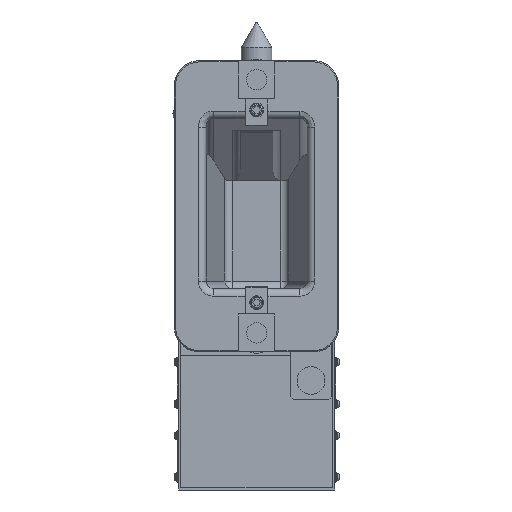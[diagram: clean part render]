
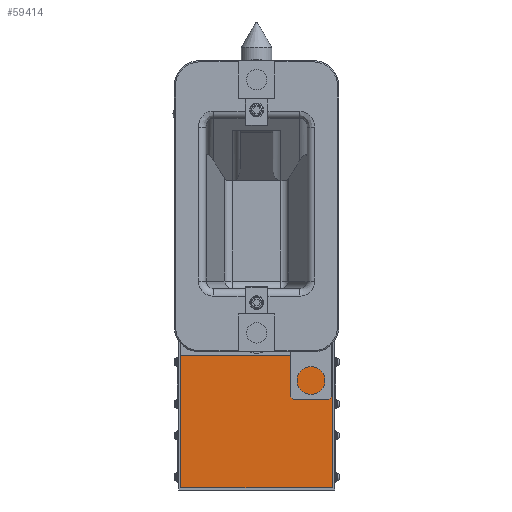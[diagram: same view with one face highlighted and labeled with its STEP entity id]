
A CAD part, front view. The second image highlights one B-rep face of the part: STEP entity #59414.
In plain terms, the highlighted planar face has unit normal (0, -1, 0).
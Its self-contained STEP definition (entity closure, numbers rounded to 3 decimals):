
#1916 = ORIENTED_EDGE ( 'NONE', *, *, #50936, .T. ) ;
#3050 = ORIENTED_EDGE ( 'NONE', *, *, #73758, .T. ) ;
#4773 = CARTESIAN_POINT ( 'NONE',  ( -60., 40., -33.5 ) ) ;
#9565 = DIRECTION ( 'NONE',  ( 0., -1., 0. ) ) ;
#10235 = EDGE_LOOP ( 'NONE', ( #1916, #59648, #3050, #11446 ) ) ;
#11431 = VERTEX_POINT ( 'NONE', #76260 ) ;
#11446 = ORIENTED_EDGE ( 'NONE', *, *, #37779, .F. ) ;
#11605 = VECTOR ( 'NONE', #12597, 1000. ) ;
#12034 = EDGE_CURVE ( 'NONE', #17889, #23284, #58261, .T. ) ;
#12597 = DIRECTION ( 'NONE',  ( 1., 0., 0. ) ) ;
#14359 = LINE ( 'NONE', #75267, #74470 ) ;
#15799 = AXIS2_PLACEMENT_3D ( 'NONE', #57546, #9565, #69699 ) ;
#17889 = VERTEX_POINT ( 'NONE', #21571 ) ;
#18437 = LINE ( 'NONE', #4773, #48460 ) ;
#21571 = CARTESIAN_POINT ( 'NONE',  ( 60., 40., -138.4 ) ) ;
#23284 = VERTEX_POINT ( 'NONE', #75992 ) ;
#35241 = CARTESIAN_POINT ( 'NONE',  ( -60., 40., -33.5 ) ) ;
#37779 = EDGE_CURVE ( 'NONE', #11431, #47424, #14359, .T. ) ;
#39855 = DIRECTION ( 'NONE',  ( 0., 0., 1. ) ) ;
#42223 = VECTOR ( 'NONE', #39855, 1000. ) ;
#43430 = LINE ( 'NONE', #60645, #11605 ) ;
#47424 = VERTEX_POINT ( 'NONE', #35241 ) ;
#48460 = VECTOR ( 'NONE', #52695, 1000. ) ;
#50936 = EDGE_CURVE ( 'NONE', #11431, #17889, #43430, .T. ) ;
#52695 = DIRECTION ( 'NONE',  ( -1., 0., 0. ) ) ;
#53569 = FACE_OUTER_BOUND ( 'NONE', #10235, .T. ) ;
#57394 = DIRECTION ( 'NONE',  ( 0., 0., 1. ) ) ;
#57546 = CARTESIAN_POINT ( 'NONE',  ( -60., 40., -140. ) ) ;
#57792 = CARTESIAN_POINT ( 'NONE',  ( 60., 40., -140. ) ) ;
#58261 = LINE ( 'NONE', #57792, #42223 ) ;
#59414 = ADVANCED_FACE ( 'NONE', ( #53569 ), #63657, .T. ) ;
#59648 = ORIENTED_EDGE ( 'NONE', *, *, #12034, .T. ) ;
#60645 = CARTESIAN_POINT ( 'NONE',  ( -500000., 40., -138.4 ) ) ;
#63657 = PLANE ( 'NONE',  #15799 ) ;
#69699 = DIRECTION ( 'NONE',  ( 0., 0., -1. ) ) ;
#73758 = EDGE_CURVE ( 'NONE', #23284, #47424, #18437, .T. ) ;
#74470 = VECTOR ( 'NONE', #57394, 1000. ) ;
#75267 = CARTESIAN_POINT ( 'NONE',  ( -60., 40., -140. ) ) ;
#75992 = CARTESIAN_POINT ( 'NONE',  ( 60., 40., -33.5 ) ) ;
#76260 = CARTESIAN_POINT ( 'NONE',  ( -60., 40., -138.4 ) ) ;
